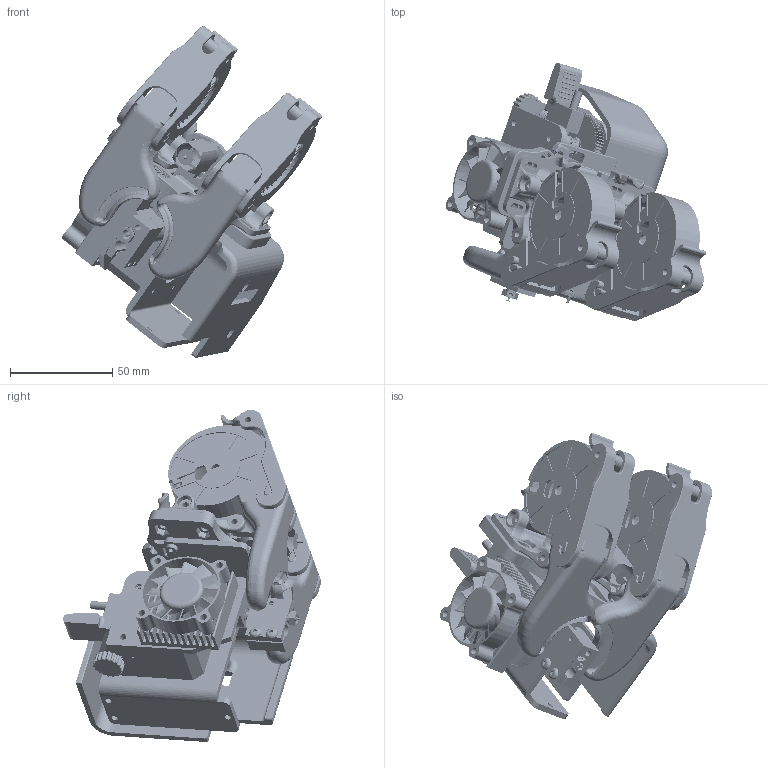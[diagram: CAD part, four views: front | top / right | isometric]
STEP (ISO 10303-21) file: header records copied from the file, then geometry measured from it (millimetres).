
FILE_DESCRIPTION(/* description */ (''),/* implementation_level */ '2;1');
FILE_NAME(/* name */ '/Users/jakeallen/Dropbox/3D Printer Fan Duct Designs/1.) Artillery Sidewinder X1/3D Models/5015 Double Ducts/VOLCANO/Volcano ALL Step Files/Volcano Dual 5015 Duct v1.step',/* time_stamp */ '2021-03-05T21:08:05-05:00',/* author */ (''),/* organization */ (''),/* preprocessor_version */ 'ST-DEVELOPER v18.1',/* originating_system */ 'Autodesk Translation Framework v9.10.0.1330',/* authorisation */ '');
FILE_SCHEMA (('AUTOMOTIVE_DESIGN { 1 0 10303 214 3 1 1 }'));
Products named in the file (13): Volcano Dual 5015 Duct; AL Mounting Bracket; Mounting Bracket; LH Fan Bracket; Radial-Cooling-Fan-5015-DC12V; BLTOUCH; BLtouch Bracket; RH Fan Bracket; RH 5015 Duct; LH 5015 Duct; Fan Clip; Stock Cowling; Volcano Extruder Sub-Assy_AllCATPart
Assembly tree (14 placements, depth 2):
  Volcano Dual 5015 Duct
    AL Mounting Bracket
    Mounting Bracket
    LH Fan Bracket
    Radial-Cooling-Fan-5015-DC12V  x2
    BLTOUCH
    Fan Clip  x2
    BLtouch Bracket
    RH Fan Bracket
    RH 5015 Duct
    LH 5015 Duct
    Stock Cowling
    Volcano Extruder Sub-Assy_AllCATPart
Bounding box: 127.45 x 126.21 x 162.43 mm (x, y, z)
Volume: 197732 mm3; surface area: 206576.3 mm2
Topology: 47 solids, 47 shells, 5445 faces, 14359 edges, 9020 vertices
Faces by surface type: plane 2068, cylinder 1900, bspline 797, torus 359, cone 213, sphere 108
Full cylindrical faces by diameter (mm): 0.8 x1, 1 x1, 2 x2, 2.459 x6, 2.5 x3, 2.8 x3, 3 x13, 3.2 x1, 3.3 x23, 3.4 x1, 3.5 x8, 3.6 x2, 3.65 x3, 3.8 x1, 4 x5, 4.4 x1, 4.5 x16, 4.85 x2, 4.95 x4, 5 x17, 5.5 x1, 5.6 x1, 5.65 x12, 5.9 x4, 6 x8, 6.2 x1, 6.3 x1, 6.7 x1, 7 x3, 7.25 x1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
Entity records: 206888 total; most frequent: CARTESIAN_POINT 92340, ORIENTED_EDGE 24766, DIRECTION 22597, EDGE_CURVE 12383, AXIS2_PLACEMENT_3D 8388, VERTEX_POINT 7817, LINE 5821, VECTOR 5821
